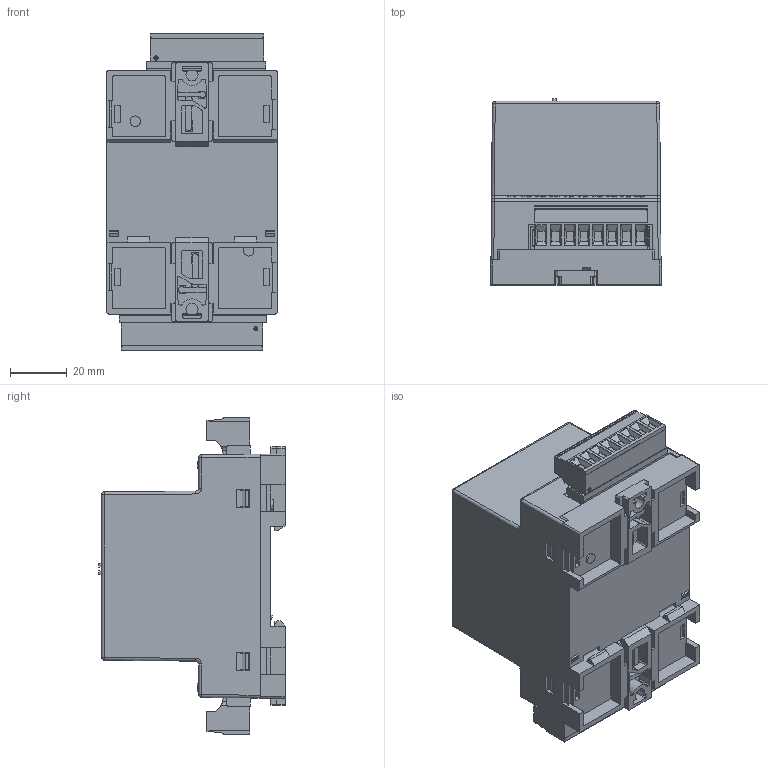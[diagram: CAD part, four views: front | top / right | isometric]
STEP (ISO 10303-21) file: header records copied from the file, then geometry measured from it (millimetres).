
FILE_DESCRIPTION (( 'STEP AP214' ), '1' );
FILE_NAME ('ISDUR4.STEP', '2018-12-05T02:54:05', ( '' ), ( '' ), 'SwSTEP 2.0', 'SolidWorks 2018', '' );
FILE_SCHEMA (( 'AUTOMOTIVE_DESIGN' ));
Length unit declared in the file: inch
Products named in the file (1): ISDUR4
Bounding box: 60 x 65.69 x 111.7 mm (x, y, z)
Volume: 284992.7 mm3; surface area: 98179.5 mm2
Topology: 6 solids, 15 shells, 4097 faces, 13690 edges, 9662 vertices
Faces by surface type: plane 2944, cylinder 619, torus 202, cone 172, bspline 152, sphere 8
Entity records: 231814 total; most frequent: CARTESIAN_POINT 63721, ORIENTED_EDGE 26762, DIRECTION 20174, EDGE_CURVE 13381, VERTEX_POINT 9526, LINE 8748, VECTOR 8748, AXIS2_PLACEMENT_3D 5713
